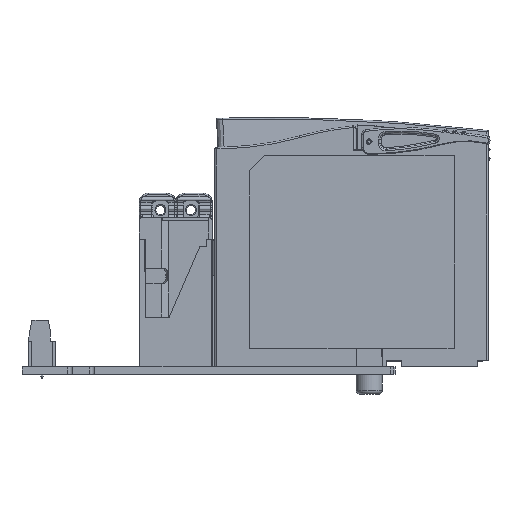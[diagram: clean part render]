
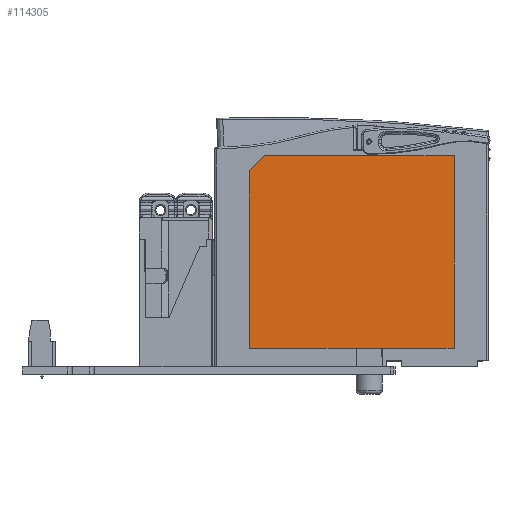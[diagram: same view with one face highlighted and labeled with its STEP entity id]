
A CAD part, front view. The second image highlights one B-rep face of the part: STEP entity #114305.
In plain terms, the highlighted planar face has unit normal (0, -1, 0).
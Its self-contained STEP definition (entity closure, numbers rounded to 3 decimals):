
#24067=DIRECTION('',(-1.,0.,0.));
#24068=VECTOR('',#24067,8.291);
#24069=CARTESIAN_POINT('',(117.745,2.24,-50.7));
#24070=LINE('',#24069,#24068);
#24071=DIRECTION('',(-1.,0.,0.));
#24072=VECTOR('',#24071,35.);
#24073=CARTESIAN_POINT('',(109.35,2.24,-50.7));
#24074=LINE('',#24073,#24072);
#24075=DIRECTION('',(0.,0.,1.));
#24076=VECTOR('',#24075,58.);
#24077=CARTESIAN_POINT('',(74.35,2.24,-50.7));
#24078=LINE('',#24077,#24076);
#24079=DIRECTION('',(0.707,0.,0.707));
#24080=VECTOR('',#24079,7.071);
#24081=CARTESIAN_POINT('',(74.35,2.24,7.3));
#24082=LINE('',#24081,#24080);
#24083=DIRECTION('',(-1.,0.,0.));
#24084=VECTOR('',#24083,23.5);
#24085=CARTESIAN_POINT('',(141.35,2.24,-50.7));
#24086=LINE('',#24085,#24084);
#24091=DIRECTION('',(1.,0.,0.));
#24092=VECTOR('',#24091,0.105);
#24093=CARTESIAN_POINT('',(117.745,2.24,-50.7));
#24094=LINE('',#24093,#24092);
#24103=DIRECTION('',(1.,0.,0.));
#24104=VECTOR('',#24103,0.105);
#24105=CARTESIAN_POINT('',(109.35,2.24,-50.7));
#24106=LINE('',#24105,#24104);
#24203=DIRECTION('',(-1.,0.,0.));
#24204=VECTOR('',#24203,62.);
#24205=CARTESIAN_POINT('',(141.35,2.24,12.3));
#24206=LINE('',#24205,#24204);
#24215=DIRECTION('',(0.,0.,1.));
#24216=VECTOR('',#24215,63.);
#24217=CARTESIAN_POINT('',(141.35,2.24,-50.7));
#24218=LINE('',#24217,#24216);
#77229=CARTESIAN_POINT('',(109.35,2.24,-50.7));
#77231=VERTEX_POINT('',#77229);
#77234=CARTESIAN_POINT('',(74.35,2.24,-50.7));
#77235=VERTEX_POINT('',#77234);
#77236=CARTESIAN_POINT('',(117.85,2.24,-50.7));
#77237=VERTEX_POINT('',#77236);
#77238=CARTESIAN_POINT('',(74.35,2.24,7.3));
#77239=VERTEX_POINT('',#77238);
#77240=CARTESIAN_POINT('',(79.35,2.24,12.3));
#77241=VERTEX_POINT('',#77240);
#77242=CARTESIAN_POINT('',(141.35,2.24,12.3));
#77243=VERTEX_POINT('',#77242);
#77244=CARTESIAN_POINT('',(141.35,2.24,-50.7));
#77245=VERTEX_POINT('',#77244);
#79869=CARTESIAN_POINT('',(117.745,2.24,-50.7));
#79870=CARTESIAN_POINT('',(109.455,2.24,-50.7));
#79871=VERTEX_POINT('',#79869);
#79872=VERTEX_POINT('',#79870);
#114281=CARTESIAN_POINT('',(107.85,2.24,-19.2));
#114282=DIRECTION('',(0.,1.,0.));
#114283=DIRECTION('',(0.,0.,-1.));
#114284=AXIS2_PLACEMENT_3D('',#114281,#114282,#114283);
#114285=PLANE('',#114284);
#114286=ORIENTED_EDGE('',*,*,#114273,.T.);
#114288=ORIENTED_EDGE('',*,*,#114287,.F.);
#114290=ORIENTED_EDGE('',*,*,#114289,.T.);
#114292=ORIENTED_EDGE('',*,*,#114291,.T.);
#114294=ORIENTED_EDGE('',*,*,#114293,.T.);
#114296=ORIENTED_EDGE('',*,*,#114295,.F.);
#114298=ORIENTED_EDGE('',*,*,#114297,.F.);
#114300=ORIENTED_EDGE('',*,*,#114299,.T.);
#114302=ORIENTED_EDGE('',*,*,#114301,.F.);
#114303=EDGE_LOOP('',(#114286,#114288,#114290,#114292,#114294,#114296,#114298,
#114300,#114302));
#114304=FACE_OUTER_BOUND('',#114303,.F.);
#114273=EDGE_CURVE('',#79871,#79872,#24070,.T.);
#114287=EDGE_CURVE('',#77231,#79872,#24106,.T.);
#114289=EDGE_CURVE('',#77231,#77235,#24074,.T.);
#114291=EDGE_CURVE('',#77235,#77239,#24078,.T.);
#114293=EDGE_CURVE('',#77239,#77241,#24082,.T.);
#114295=EDGE_CURVE('',#77243,#77241,#24206,.T.);
#114297=EDGE_CURVE('',#77245,#77243,#24218,.T.);
#114299=EDGE_CURVE('',#77245,#77237,#24086,.T.);
#114301=EDGE_CURVE('',#79871,#77237,#24094,.T.);
#114305=ADVANCED_FACE('',(#114304),#114285,.F.);
